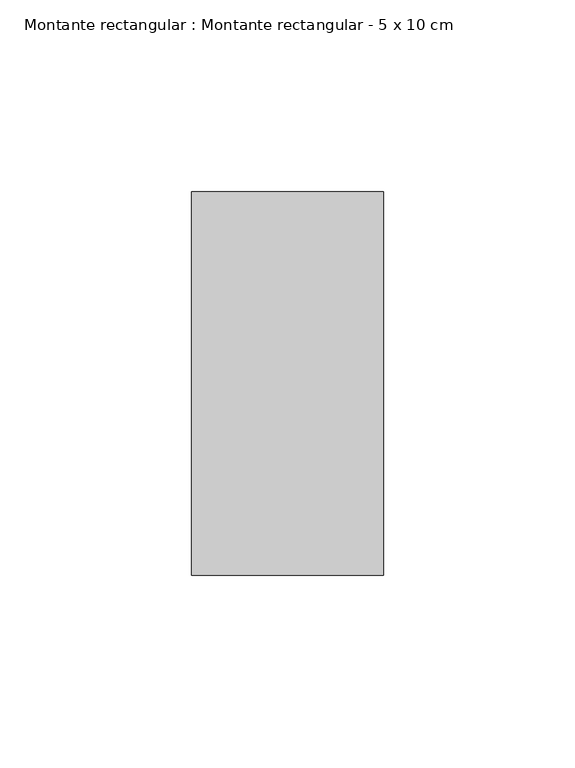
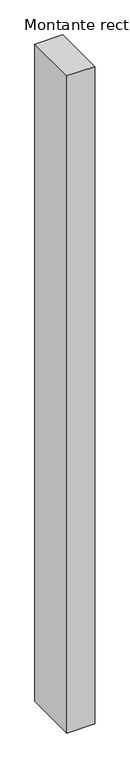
"""IFC4 building model written with IfcOpenShell, lengths in millimetres: member geometry, Montante rectangular : Montante rectangular - 5 x 10 cm."""

from ifc_helpers import new_model, si_unit, frame, origin, place, context, project, spatial, polyline, outline, extrude, source, transform, mapped, element, save


def montante_rectangular_montante_rectangular_5_x_10_cm_92e97afa(model_context):
    return source(origin(), model_context, "Body", "SweptSolid", [
        extrude(outline(polyline([(25.0, 50.0), (25.0, -50.0), (-25.0, -50.0), (-25.0, 50.0), (25.0, 50.0)])), frame((0.0, 0.0, -1250.0), z_axis=(0.0, 0.0, 1.0), x_axis=(1.0, 0.0, 0.0)), (0.0, 0.0, 1.0), 1250.0),
    ])


if __name__ == "__main__":
    model = new_model("IFC4")
    model_context = context("Model", 3, world=origin())
    ifc_project = project(units=[si_unit("LENGTHUNIT", "METRE", prefix="MILLI")], contexts=[model_context])
    site = spatial("IfcSite", under=ifc_project)
    building = spatial("IfcBuilding", under=site)
    placement = place(None, origin())
    montante_rectangular_montante_rectangular_5_x_10_cm_shape = montante_rectangular_montante_rectangular_5_x_10_cm_92e97afa(model_context)
    element("IfcMember", 1, ObjectType="Montante rectangular : Montante rectangular - 5 x 10 cm", at=placement, inside=building, context=model_context, shape_type="MappedRepresentation", body=[
        mapped(montante_rectangular_montante_rectangular_5_x_10_cm_shape, transform((0.0, 0.0, 0.0), x_axis=(1.0, 0.0, 0.0), y_axis=(0.0, 1.0, 0.0), z_axis=(0.0, 0.0, 1.0))),
    ])
    save(model, "model.ifc")
